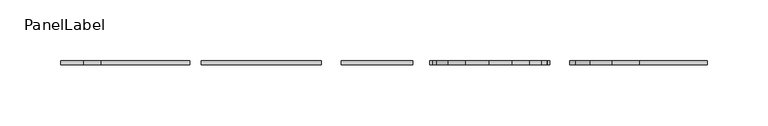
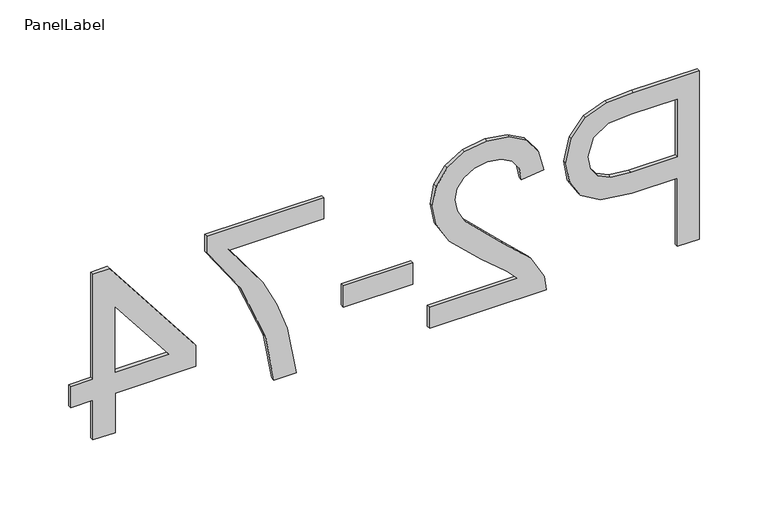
"""IFC4 building model written with IfcOpenShell, lengths in millimetres: fastener geometry, PanelLabel : Miranda."""

from ifc_helpers import new_model, si_unit, frame, origin, place, context, project, spatial, polyline, outline, extrude, source, transform, mapped, element, save


def panellabel_10638fd7(model_context):
    return source(origin(), model_context, "Body", "SweptSolid", [
        extrude(outline(polyline([(1310.9113766, 260.2523077), (1460.9667612, 260.2523077), (1460.9667612, 204.6409615), (1459.5380112, 182.2205769), (1452.5224823, 163.9948558), (1438.0151747, 152.1801923), (1417.554742, 147.7107692), (1399.8693814, 150.7285457), (1385.1331073, 159.781875), (1375.1868093, 176.7116466), (1371.8713766, 203.35875), (1371.8713766, 241.4953846), (1310.9113766, 241.4953846), (1310.9113766, 260.2523077)]), holes=[polyline([(1390.6282997, 241.4953846), (1390.6282997, 202.2597115), (1392.3501266, 185.6275962), (1397.5156073, 174.6372115), (1405.8041891, 168.5100721), (1416.8953189, 166.4676923), (1432.4283958, 171.2851442), (1440.9276266, 183.9424038), (1442.2098381, 202.6993269), (1442.2098381, 241.4953846), (1390.6282997, 241.4953846)])]), frame((0.0, 52.3875, 0.0), z_axis=(0.0, 1.0, 0.0), x_axis=(0.0, 0.0, 1.0)), (0.0, 0.0, 1.0), 3.175),
        extrude(outline(polyline([(1329.6682997, 32.8246154), (1310.9113766, 32.8246154), (1310.9113766, 131.2984615), (1323.8433958, 129.2835577), (1343.7543093, 117.8901923), (1365.4969535, 94.4074038), (1396.7462804, 62.0224038), (1407.5168573, 55.9502163), (1417.9943573, 53.9261538), (1427.3865569, 55.8357332), (1435.1943093, 61.5644712), (1440.4559559, 70.3705168), (1442.2098381, 81.5120192), (1440.4971698, 93.2121995), (1435.359165, 102.3021635), (1427.1988045, 108.1682813), (1416.4190689, 110.1969231), (1418.7636843, 128.9538462), (1436.9069775, 124.4065745), (1450.1595497, 114.5747596), (1458.2649583, 99.9712861), (1460.9667612, 81.1090385), (1457.9627227, 62.1094111), (1448.9506073, 47.5334135), (1435.4873862, 38.2602764), (1419.1300304, 35.1692308), (1401.3439247, 38.5029808), (1382.9533477, 49.5849519), (1357.254165, 76.4564423), (1339.211617, 98.0342308), (1329.6682997, 106.4968269), (1329.6682997, 32.8246154)])), frame((0.0, 52.3875, 0.0), z_axis=(0.0, 1.0, 0.0), x_axis=(0.0, 0.0, 1.0)), (0.0, 0.0, 1.0), 3.175),
        extrude(outline(polyline([(-39.8584615, 55.5625), (18.7569231, 55.5625), (18.7569231, 52.3875), (-39.8584615, 52.3875), (-39.8584615, 55.5625)])), frame((0.0, 0.0, 1355.4590689), z_axis=(0.0, 0.0, 1.0), x_axis=(1.0, 0.0, 0.0)), (0.0, 0.0, 1.0), 18.7569231),
        extrude(outline(polyline([(1439.8652227, -56.2707692), (1458.6221458, -56.2707692), (1458.6221458, -154.7446154), (1443.455415, -154.7446154), (1403.1023862, -126.8107212), (1351.6857035, -105.4344231), (1310.9113766, -98.4738462), (1310.9113766, -79.7169231), (1353.2243573, -87.1720673), (1377.5817972, -95.8498918), (1401.0508477, -107.6325), (1439.8652227, -135.9876923), (1439.8652227, -56.2707692)])), frame((0.0, 52.3875, 0.0), z_axis=(0.0, 1.0, 0.0), x_axis=(0.0, 0.0, 1.0)), (0.0, 0.0, 1.0), 3.175),
        extrude(outline(polyline([(1310.9113766, -232.1169231), (1346.0806073, -232.1169231), (1346.0806073, -164.1230769), (1364.8375304, -164.1230769), (1458.6221458, -236.8061538), (1458.6221458, -250.8738462), (1364.8375304, -250.8738462), (1364.8375304, -269.6307692), (1346.0806073, -269.6307692), (1346.0806073, -250.8738462), (1310.9113766, -250.8738462), (1310.9113766, -232.1169231)]), holes=[polyline([(1364.8375304, -232.1169231), (1422.793492, -232.1169231), (1364.8375304, -187.2028846), (1364.8375304, -232.1169231)])]), frame((0.0, 52.3875, 0.0), z_axis=(0.0, 1.0, 0.0), x_axis=(0.0, 0.0, 1.0)), (0.0, 0.0, 1.0), 3.175),
    ])


if __name__ == "__main__":
    model = new_model("IFC4")
    model_context = context("Model", 3, world=origin())
    ifc_project = project(units=[si_unit("LENGTHUNIT", "METRE", prefix="MILLI")], contexts=[model_context])
    site = spatial("IfcSite", under=ifc_project)
    building = spatial("IfcBuilding", under=site)
    placement = place(None, origin())
    panellabel_shape = panellabel_10638fd7(model_context)
    element("IfcFastener", 1, ObjectType="PanelLabel : Miranda", at=placement, inside=building, context=model_context, shape_type="MappedRepresentation", body=[
        mapped(panellabel_shape, transform((0.0, 0.0, 0.0), x_axis=(1.0, 0.0, 0.0), y_axis=(0.0, 1.0, 0.0), z_axis=(0.0, 0.0, 1.0))),
    ])
    save(model, "model.ifc")
